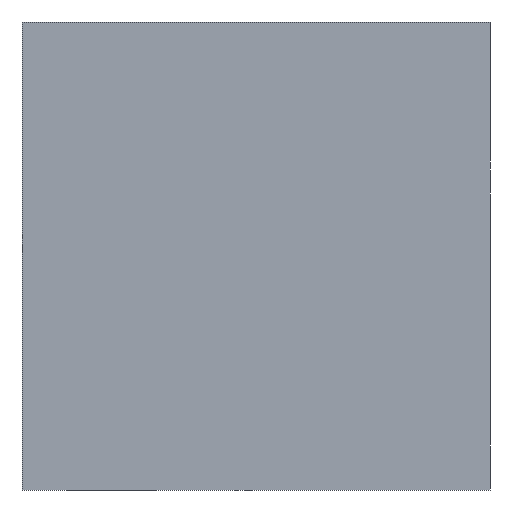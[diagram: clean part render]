
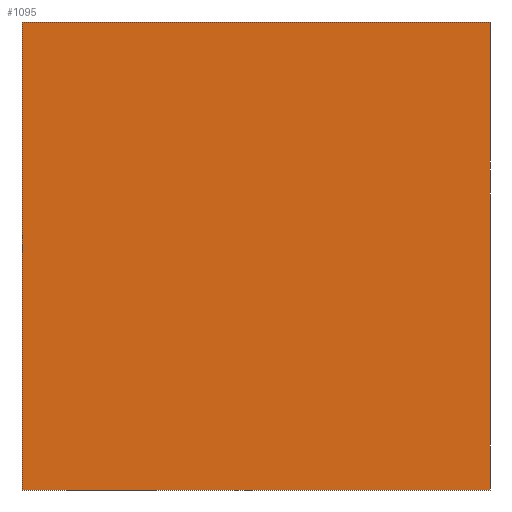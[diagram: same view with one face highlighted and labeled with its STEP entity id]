
A CAD part, front view. The second image highlights one B-rep face of the part: STEP entity #1095.
In plain terms, the highlighted planar face has unit normal (0, -1, 0).
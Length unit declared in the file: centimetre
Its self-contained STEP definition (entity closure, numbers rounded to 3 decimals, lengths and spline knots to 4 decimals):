
#23 = CARTESIAN_POINT ( 'NONE',  ( 1000., 0., 1000. ) ) ;
#128 = CARTESIAN_POINT ( 'NONE',  ( 0., 0., 0. ) ) ;
#213 = VECTOR ( 'NONE', #436, 100. ) ;
#222 = VECTOR ( 'NONE', #734, 100. ) ;
#245 = VERTEX_POINT ( 'NONE', #1266 ) ;
#248 = AXIS2_PLACEMENT_3D ( 'NONE', #1319, #255, #334 ) ;
#255 = DIRECTION ( 'NONE',  ( 0., 1., 0. ) ) ;
#330 = ORIENTED_EDGE ( 'NONE', *, *, #955, .F. ) ;
#334 = DIRECTION ( 'NONE',  ( 0., 0., 1. ) ) ;
#351 = DIRECTION ( 'NONE',  ( 0., 0., -1. ) ) ;
#392 = VERTEX_POINT ( 'NONE', #527 ) ;
#399 = CARTESIAN_POINT ( 'NONE',  ( 1000., 0., 0. ) ) ;
#436 = DIRECTION ( 'NONE',  ( 0., 0., -1. ) ) ;
#503 = PLANE ( 'NONE',  #248 ) ;
#507 = EDGE_CURVE ( 'NONE', #245, #935, #1288, .T. ) ;
#527 = CARTESIAN_POINT ( 'NONE',  ( 1000., 0., 1000. ) ) ;
#544 = VECTOR ( 'NONE', #351, 100. ) ;
#645 = LINE ( 'NONE', #23, #213 ) ;
#661 = EDGE_CURVE ( 'NONE', #935, #1109, #905, .T. ) ;
#707 = VECTOR ( 'NONE', #800, 100. ) ;
#734 = DIRECTION ( 'NONE',  ( 1., 0., 0. ) ) ;
#763 = CARTESIAN_POINT ( 'NONE',  ( 0., 0., 1000. ) ) ;
#800 = DIRECTION ( 'NONE',  ( 1., 0., 0. ) ) ;
#905 = LINE ( 'NONE', #1339, #707 ) ;
#935 = VERTEX_POINT ( 'NONE', #128 ) ;
#955 = EDGE_CURVE ( 'NONE', #392, #1109, #645, .T. ) ;
#1043 = ORIENTED_EDGE ( 'NONE', *, *, #661, .T. ) ;
#1095 = ADVANCED_FACE ( 'NONE', ( #1130 ), #503, .F. ) ;
#1109 = VERTEX_POINT ( 'NONE', #399 ) ;
#1130 = FACE_OUTER_BOUND ( 'NONE', #1211, .T. ) ;
#1159 = ORIENTED_EDGE ( 'NONE', *, *, #507, .T. ) ;
#1167 = EDGE_CURVE ( 'NONE', #245, #392, #1387, .T. ) ;
#1211 = EDGE_LOOP ( 'NONE', ( #1043, #330, #1318, #1159 ) ) ;
#1266 = CARTESIAN_POINT ( 'NONE',  ( 0., 0., 1000. ) ) ;
#1288 = LINE ( 'NONE', #763, #544 ) ;
#1318 = ORIENTED_EDGE ( 'NONE', *, *, #1167, .F. ) ;
#1319 = CARTESIAN_POINT ( 'NONE',  ( 0., 0., 1000. ) ) ;
#1339 = CARTESIAN_POINT ( 'NONE',  ( 0., 0., 0. ) ) ;
#1367 = CARTESIAN_POINT ( 'NONE',  ( 0., 0., 1000. ) ) ;
#1387 = LINE ( 'NONE', #1367, #222 ) ;
